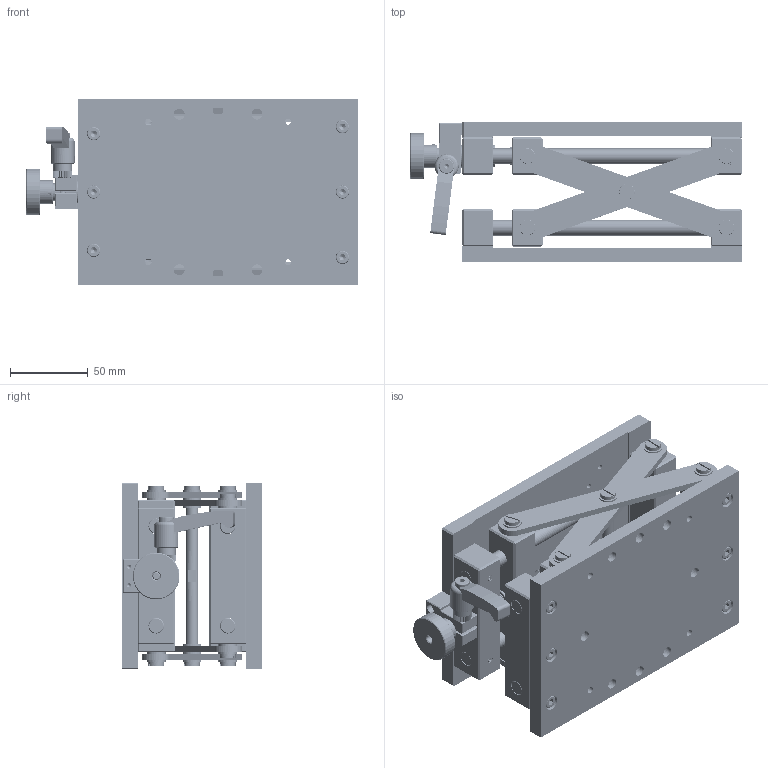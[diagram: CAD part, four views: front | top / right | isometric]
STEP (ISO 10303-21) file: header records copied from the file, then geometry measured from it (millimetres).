
FILE_DESCRIPTION (( 'STEP AP203' ), '1' );
FILE_NAME ('BLJZ120.STEP', '2024-07-15T12:17:02', ( 'Windows User' ), ( 'P R C' ), 'SwSTEP 2.0', 'SolidWorks 2024', '' );
FILE_SCHEMA (( 'CONFIG_CONTROL_DESIGN' ));
Products named in the file (1): BLJZ120
Bounding box: 213.5 x 90 x 120 mm (x, y, z)
Volume: 765062.3 mm3; surface area: 256986.4 mm2
Topology: 82 solids, 82 shells, 1632 faces, 3698 edges, 2306 vertices
Faces by surface type: plane 1050, cylinder 348, cone 165, bspline 44, torus 24, sphere 1
Full cylindrical faces by diameter (mm): 1.5 x2, 2.5 x7, 3 x1, 3.3 x42, 3.4 x2, 3.5 x10, 4 x9, 4.2 x16, 4.5 x5, 5 x16, 5.3 x1, 5.5 x14, 6 x24, 6.02 x20, 6.5 x22, 7 x9, 8 x5, 8.5 x14, 9.6 x2, 10 x43, 11 x9, 11.5 x1, 11.6 x1, 12 x24, 13 x2, 13.02 x2, 14.5 x2, 15 x1, 15.5 x1, 30 x1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
Entity records: 76195 total; most frequent: CARTESIAN_POINT 42754, DIRECTION 6764, ORIENTED_EDGE 6104, EDGE_CURVE 3052, AXIS2_PLACEMENT_3D 2606, EDGE_LOOP 2411, VERTEX_POINT 2139, FACE_OUTER_BOUND 1938
